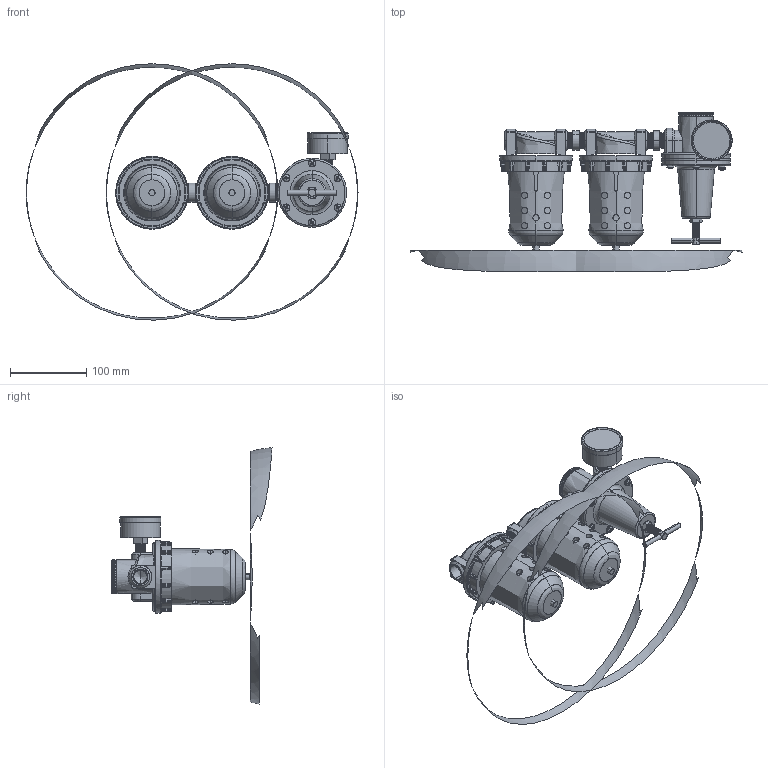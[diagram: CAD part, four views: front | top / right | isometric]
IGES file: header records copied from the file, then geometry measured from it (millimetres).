
Start section: SolidWorks IGES file using analytic representation for surfaces
Global section: file name: D:\Custom\3D繪製\FRL\FSR系列\C728##-04YB#.IGS; native system: SolidWorks 2014; preprocessor: SolidWorks 2014; author: Chieh_Lu; date: 160115.014321; units: millimetre
Bounding box: 436.53 x 210.54 x 337.11 mm (x, y, z)
Surface area: 244612.5 mm2 (no closed solid volume)
Topology: 0 solids, 0 shells, 1610 faces, 22425 edges, 22394 vertices
Faces by surface type: revolution 820, bspline 790
